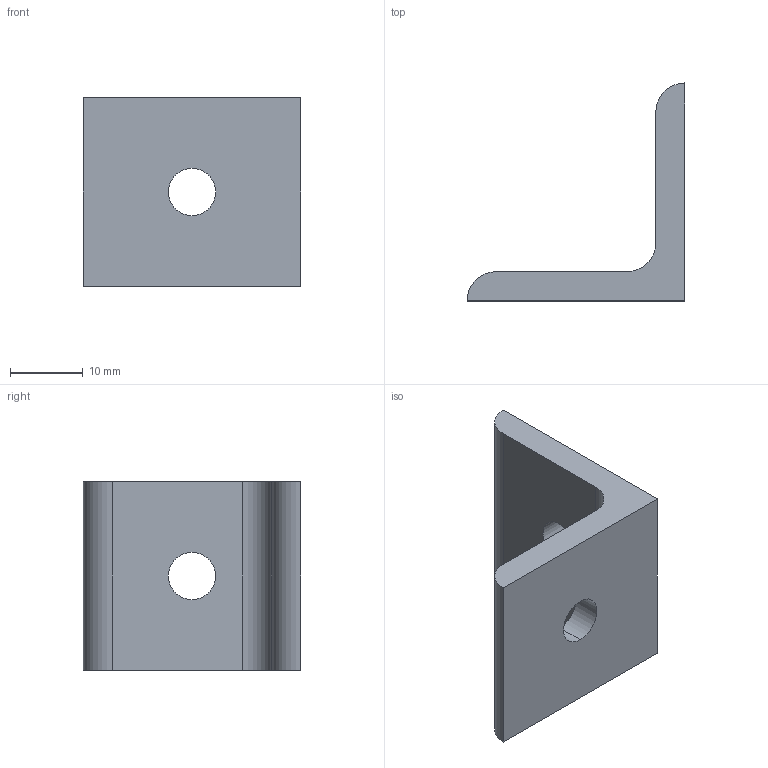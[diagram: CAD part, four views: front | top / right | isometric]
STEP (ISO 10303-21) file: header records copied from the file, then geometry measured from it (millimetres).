
FILE_DESCRIPTION (( 'STEP AP214' ), '1' );
FILE_NAME ('6002.STEP', '2015-04-20T07:28:45', ( 'user' ), ( '' ), 'SwSTEP 2.0', 'SolidWorks 2014', '' );
FILE_SCHEMA (( 'AUTOMOTIVE_DESIGN' ));
Length unit declared in the file: millimetre
Products named in the file (1): 6002
Bounding box: 30 x 30 x 26 mm (x, y, z)
Volume: 5469.3 mm3; surface area: 3457.9 mm2
Topology: 1 solids, 1 shells, 13 faces, 33 edges, 22 vertices
Faces by surface type: cylinder 7, plane 6
Entity records: 443 total; most frequent: DIRECTION 75, CARTESIAN_POINT 69, ORIENTED_EDGE 66, EDGE_CURVE 33, AXIS2_PLACEMENT_3D 28, VERTEX_POINT 22, LINE 19, VECTOR 19
